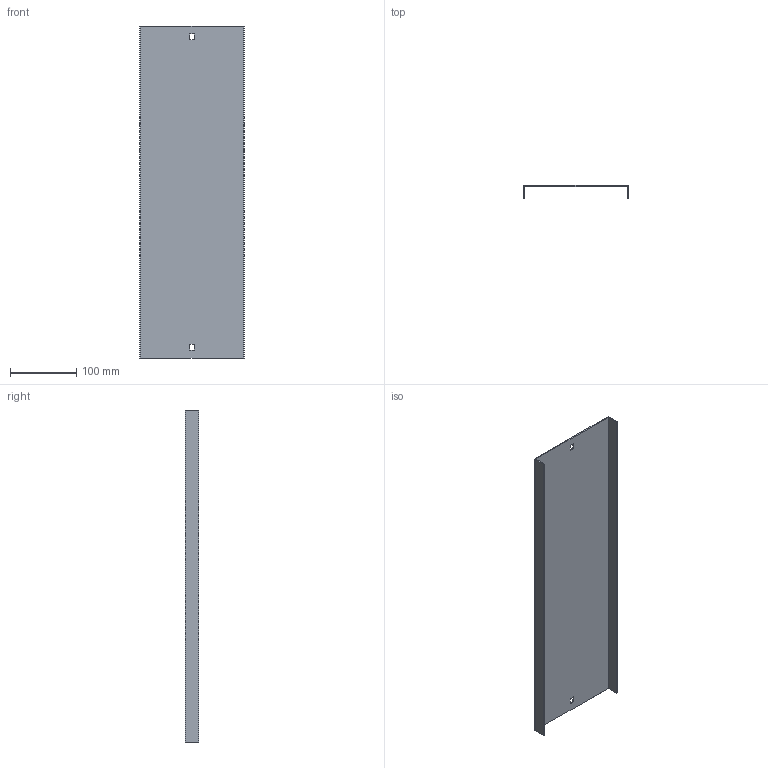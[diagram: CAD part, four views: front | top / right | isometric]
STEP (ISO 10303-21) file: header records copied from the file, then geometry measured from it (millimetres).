
FILE_DESCRIPTION (( 'STEP AP214' ), '1' );
FILE_NAME ('05G7R150.step', '2025-02-21T13:08:21', ( '' ), ( '' ), 'SwSTEP 2.0', 'SolidWorks 2023', '' );
FILE_SCHEMA (( 'AUTOMOTIVE_DESIGN' ));
Length unit declared in the file: millimetre
Products named in the file (1): 05G7R150
Bounding box: 157 x 20 x 500 mm (x, y, z)
Volume: 145324.5 mm3; surface area: 195941 mm2
Topology: 1 solids, 1 shells, 18 faces, 48 edges, 32 vertices
Faces by surface type: plane 18
Entity records: 583 total; most frequent: CARTESIAN_POINT 99, ORIENTED_EDGE 96, DIRECTION 86, EDGE_CURVE 48, VECTOR 48, LINE 48, VERTEX_POINT 32, EDGE_LOOP 22
